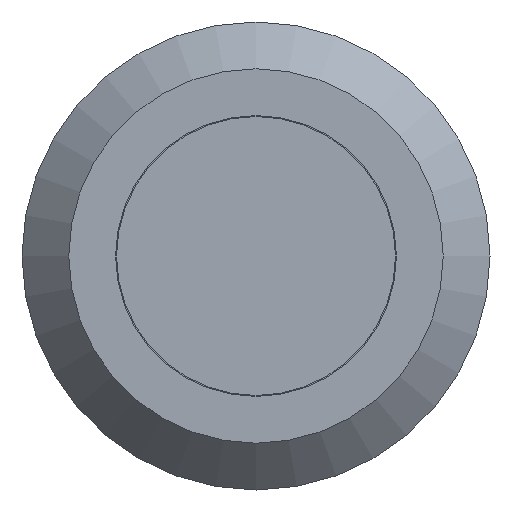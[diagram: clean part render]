
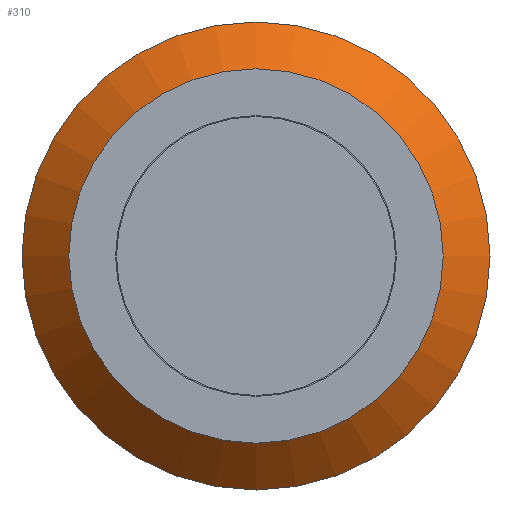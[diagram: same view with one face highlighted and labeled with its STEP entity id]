
A CAD part, front view. The second image highlights one B-rep face of the part: STEP entity #310.
In plain terms, the highlighted conical face has half-angle 45 degrees and reference radius 5 mm.
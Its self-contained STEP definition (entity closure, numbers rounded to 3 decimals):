
#25=CONICAL_SURFACE('',#348,5.,0.785);
#86=ORIENTED_EDGE('',*,*,#160,.F.);
#87=ORIENTED_EDGE('',*,*,#159,.T.);
#159=EDGE_CURVE('',#197,#197,#218,.T.);
#160=EDGE_CURVE('',#198,#198,#219,.T.);
#197=VERTEX_POINT('',#497);
#198=VERTEX_POINT('',#500);
#218=CIRCLE('',#347,5.);
#219=CIRCLE('',#349,4.);
#236=EDGE_LOOP('',(#86));
#237=EDGE_LOOP('',(#87));
#266=FACE_BOUND('',#236,.T.);
#267=FACE_BOUND('',#237,.T.);
#310=ADVANCED_FACE('',(#266,#267),#25,.T.);
#347=AXIS2_PLACEMENT_3D('',#496,#396,#397);
#348=AXIS2_PLACEMENT_3D('',#498,#398,#399);
#349=AXIS2_PLACEMENT_3D('',#499,#400,#401);
#396=DIRECTION('',(0.,-1.,0.));
#397=DIRECTION('',(0.,0.,-1.));
#398=DIRECTION('',(0.,1.,0.));
#399=DIRECTION('',(0.,0.,1.));
#400=DIRECTION('',(0.,-1.,0.));
#401=DIRECTION('',(0.,0.,-1.));
#496=CARTESIAN_POINT('',(0.,1.,0.));
#497=CARTESIAN_POINT('',(0.,1.,-5.));
#498=CARTESIAN_POINT('',(0.,1.,0.));
#499=CARTESIAN_POINT('',(0.,0.,0.));
#500=CARTESIAN_POINT('',(0.,0.,-4.));
